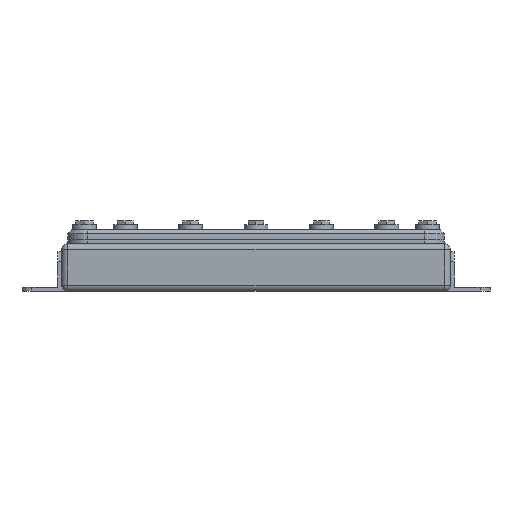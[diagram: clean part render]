
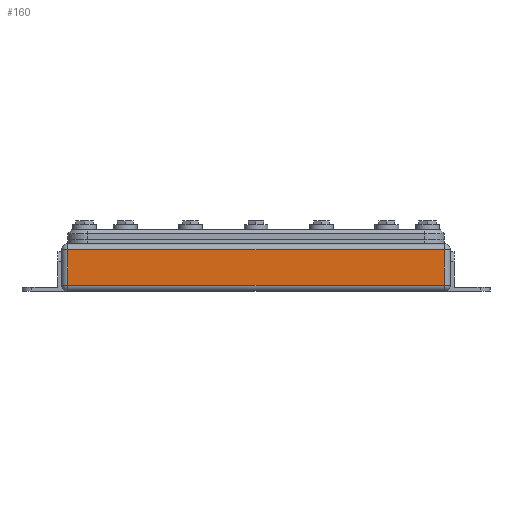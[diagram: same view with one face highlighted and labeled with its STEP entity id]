
A CAD part, left-side view. The second image highlights one B-rep face of the part: STEP entity #160.
In plain terms, the highlighted planar face has unit normal (-1, 0, 0).
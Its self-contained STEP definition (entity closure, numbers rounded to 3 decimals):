
#160 = ADVANCED_FACE ( 'NONE', ( #9745 ), #4094, .F. ) ;
#952 = VECTOR ( 'NONE', #4787, 1000. ) ;
#1263 = CARTESIAN_POINT ( 'NONE',  ( -73., 95., 3. ) ) ;
#1441 = ORIENTED_EDGE ( 'NONE', *, *, #6438, .T. ) ;
#1548 = CARTESIAN_POINT ( 'NONE',  ( -73., 95., 24. ) ) ;
#1598 = VECTOR ( 'NONE', #9510, 1000. ) ;
#2365 = LINE ( 'NONE', #6342, #7133 ) ;
#2481 = CARTESIAN_POINT ( 'NONE',  ( -73., -98., 24. ) ) ;
#3001 = CARTESIAN_POINT ( 'NONE',  ( -73., -95., 3. ) ) ;
#3146 = ORIENTED_EDGE ( 'NONE', *, *, #8093, .T. ) ;
#3378 = LINE ( 'NONE', #1548, #952 ) ;
#3448 = AXIS2_PLACEMENT_3D ( 'NONE', #2481, #7350, #4923 ) ;
#3558 = VERTEX_POINT ( 'NONE', #5839 ) ;
#4094 = PLANE ( 'NONE',  #3448 ) ;
#4556 = CARTESIAN_POINT ( 'NONE',  ( -73., -98., 21. ) ) ;
#4604 = LINE ( 'NONE', #4556, #10062 ) ;
#4787 = DIRECTION ( 'NONE',  ( 0., 0., -1. ) ) ;
#4889 = ORIENTED_EDGE ( 'NONE', *, *, #8542, .T. ) ;
#4923 = DIRECTION ( 'NONE',  ( 0., 0., -1. ) ) ;
#4996 = VERTEX_POINT ( 'NONE', #9009 ) ;
#5839 = CARTESIAN_POINT ( 'NONE',  ( -73., 95., 21. ) ) ;
#6322 = LINE ( 'NONE', #9559, #1598 ) ;
#6342 = CARTESIAN_POINT ( 'NONE',  ( -73., -98., 3. ) ) ;
#6438 = EDGE_CURVE ( 'NONE', #10127, #4996, #6322, .T. ) ;
#7066 = EDGE_CURVE ( 'NONE', #3558, #10328, #3378, .T. ) ;
#7133 = VECTOR ( 'NONE', #10103, 1000. ) ;
#7195 = ORIENTED_EDGE ( 'NONE', *, *, #7066, .T. ) ;
#7350 = DIRECTION ( 'NONE',  ( 1., 0., 0. ) ) ;
#7771 = DIRECTION ( 'NONE',  ( 0., 1., 0. ) ) ;
#8093 = EDGE_CURVE ( 'NONE', #10328, #10127, #2365, .T. ) ;
#8542 = EDGE_CURVE ( 'NONE', #4996, #3558, #4604, .T. ) ;
#9009 = CARTESIAN_POINT ( 'NONE',  ( -73., -95., 21. ) ) ;
#9413 = EDGE_LOOP ( 'NONE', ( #1441, #4889, #7195, #3146 ) ) ;
#9510 = DIRECTION ( 'NONE',  ( 0., 0., 1. ) ) ;
#9559 = CARTESIAN_POINT ( 'NONE',  ( -73., -95., 24. ) ) ;
#9745 = FACE_OUTER_BOUND ( 'NONE', #9413, .T. ) ;
#10062 = VECTOR ( 'NONE', #7771, 1000. ) ;
#10103 = DIRECTION ( 'NONE',  ( 0., -1., 0. ) ) ;
#10127 = VERTEX_POINT ( 'NONE', #3001 ) ;
#10328 = VERTEX_POINT ( 'NONE', #1263 ) ;
